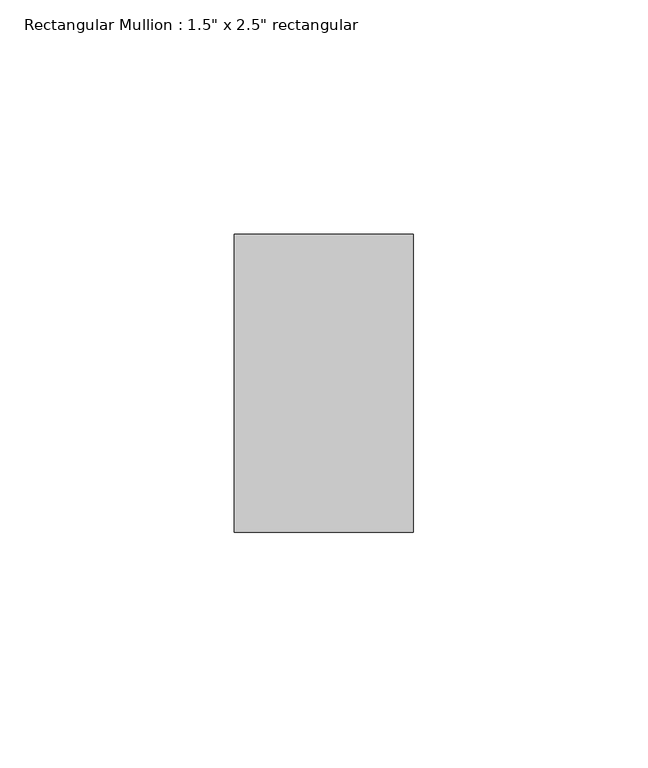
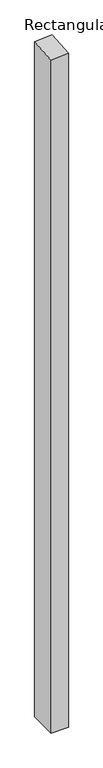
"""IFC4 building model written with IfcOpenShell, lengths in millimetres: member geometry."""

from ifc_helpers import new_model, si_unit, origin, place, context, project, spatial, faceted_brep, source, transform, mapped, element, save


def member_8a53927b(model_context):
    return source(origin(), model_context, "Body", "Brep", [
        faceted_brep([(19.05, 31.75, -1586.3522283), (19.05, -31.75, -1586.3522283), (-19.05, -31.75, -1586.3522283), (-19.05, 31.75, -1586.3522283), (-19.05, 31.75, 0.9408031), (19.05, 31.75, 3.806207), (-19.05, -31.75, -3.806207), (19.05, -31.75, -0.9408031)], [[[0, 1, 2, 3]], [[4, 5, 0, 3]], [[6, 4, 3, 2]], [[7, 6, 2, 1]], [[5, 7, 1, 0]], [[5, 4, 6, 7]]]),
    ])


if __name__ == "__main__":
    model = new_model("IFC4")
    model_context = context("Model", 3, world=origin())
    ifc_project = project(units=[si_unit("LENGTHUNIT", "METRE", prefix="MILLI")], contexts=[model_context])
    site = spatial("IfcSite", under=ifc_project)
    building = spatial("IfcBuilding", under=site)
    placement = place(None, origin())
    member_shape = member_8a53927b(model_context)
    element("IfcMember", 1, ObjectType="Rectangular Mullion : 1.5\" x 2.5\" rectangular", at=placement, inside=building, context=model_context, shape_type="MappedRepresentation", body=[
        mapped(member_shape, transform((0.0, 0.0, 0.0), x_axis=(1.0, 0.0, 0.0), y_axis=(0.0, 1.0, 0.0), z_axis=(0.0, 0.0, 1.0))),
    ])
    save(model, "model.ifc")
